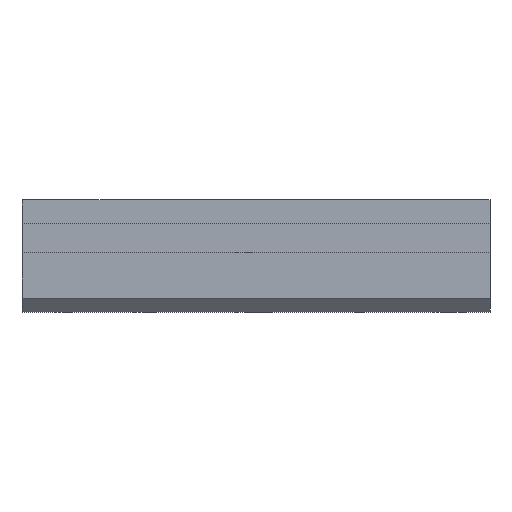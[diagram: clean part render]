
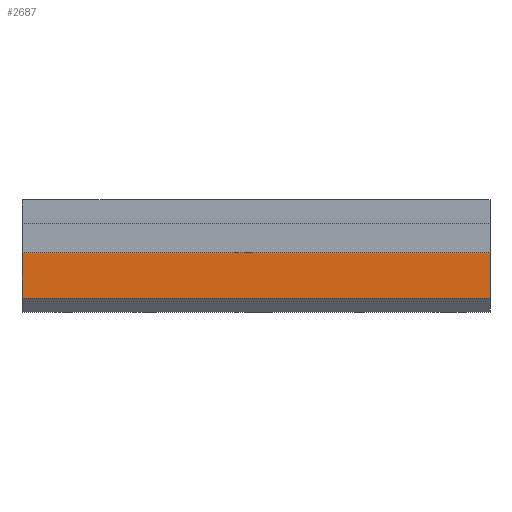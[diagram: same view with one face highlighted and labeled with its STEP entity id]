
A CAD part, front view. The second image highlights one B-rep face of the part: STEP entity #2687.
In plain terms, the highlighted planar face has unit normal (0, -1, 0).
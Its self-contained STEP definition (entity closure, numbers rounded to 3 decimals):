
#2102 = PLANE('',#2103);
#2103 = AXIS2_PLACEMENT_3D('',#2104,#2105,#2106);
#2104 = CARTESIAN_POINT('',(232.886,-103.939,
    7.136));
#2105 = DIRECTION('',(-1.,0.,0.));
#2106 = DIRECTION('',(0.,0.,1.));
#2158 = PLANE('',#2159);
#2159 = AXIS2_PLACEMENT_3D('',#2160,#2161,#2162);
#2160 = CARTESIAN_POINT('',(63.886,-103.939,13.268));
#2161 = DIRECTION('',(1.,0.,0.));
#2162 = DIRECTION('',(0.,0.,-1.));
#2479 = VERTEX_POINT('',#2480);
#2480 = CARTESIAN_POINT('',(63.886,-159.439,
    -8.496));
#2487 = PLANE('',#2488);
#2488 = AXIS2_PLACEMENT_3D('',#2489,#2490,#2491);
#2489 = CARTESIAN_POINT('',(232.886,-159.439,
    -8.496));
#2490 = DIRECTION('',(0.,0.754,0.657));
#2491 = DIRECTION('',(0.,0.657,-0.754
    ));
#2535 = VERTEX_POINT('',#2536);
#2536 = CARTESIAN_POINT('',(232.886,-159.439,
    -8.496));
#2557 = EDGE_CURVE('',#2479,#2535,#2558,.T.);
#2558 = SURFACE_CURVE('',#2559,(#2563,#2570),.PCURVE_S1.);
#2559 = LINE('',#2560,#2561);
#2560 = CARTESIAN_POINT('',(236.636,-159.439,
    -8.496));
#2561 = VECTOR('',#2562,1.);
#2562 = DIRECTION('',(1.,0.,0.));
#2563 = PCURVE('',#2487,#2564);
#2564 = DEFINITIONAL_REPRESENTATION('',(#2565),#2569);
#2565 = LINE('',#2566,#2567);
#2566 = CARTESIAN_POINT('',(0.,-3.75));
#2567 = VECTOR('',#2568,1.);
#2568 = DIRECTION('',(0.,-1.));
#2569 = ( GEOMETRIC_REPRESENTATION_CONTEXT(2) 
PARAMETRIC_REPRESENTATION_CONTEXT() REPRESENTATION_CONTEXT('2D SPACE',''
  ) );
#2570 = PCURVE('',#2571,#2576);
#2571 = PLANE('',#2572);
#2572 = AXIS2_PLACEMENT_3D('',#2573,#2574,#2575);
#2573 = CARTESIAN_POINT('',(240.386,-159.439,18.486));
#2574 = DIRECTION('',(0.,-1.,0.));
#2575 = DIRECTION('',(-1.,0.,0.));
#2576 = DEFINITIONAL_REPRESENTATION('',(#2577),#2581);
#2577 = LINE('',#2578,#2579);
#2578 = CARTESIAN_POINT('',(3.75,26.982));
#2579 = VECTOR('',#2580,1.);
#2580 = DIRECTION('',(-1.,0.));
#2581 = ( GEOMETRIC_REPRESENTATION_CONTEXT(2) 
PARAMETRIC_REPRESENTATION_CONTEXT() REPRESENTATION_CONTEXT('2D SPACE',''
  ) );
#2687 = ADVANCED_FACE('',(#2688),#2571,.T.);
#2688 = FACE_BOUND('',#2689,.T.);
#2689 = EDGE_LOOP('',(#2690,#2691,#2714,#2742));
#2690 = ORIENTED_EDGE('',*,*,#2557,.T.);
#2691 = ORIENTED_EDGE('',*,*,#2692,.T.);
#2692 = EDGE_CURVE('',#2535,#2693,#2695,.T.);
#2693 = VERTEX_POINT('',#2694);
#2694 = CARTESIAN_POINT('',(232.886,-159.439,8.018));
#2695 = SURFACE_CURVE('',#2696,(#2700,#2707),.PCURVE_S1.);
#2696 = LINE('',#2697,#2698);
#2697 = CARTESIAN_POINT('',(232.886,-159.439,
    12.811));
#2698 = VECTOR('',#2699,1.);
#2699 = DIRECTION('',(0.,0.,1.));
#2700 = PCURVE('',#2571,#2701);
#2701 = DEFINITIONAL_REPRESENTATION('',(#2702),#2706);
#2702 = LINE('',#2703,#2704);
#2703 = CARTESIAN_POINT('',(7.5,5.675));
#2704 = VECTOR('',#2705,1.);
#2705 = DIRECTION('',(0.,-1.));
#2706 = ( GEOMETRIC_REPRESENTATION_CONTEXT(2) 
PARAMETRIC_REPRESENTATION_CONTEXT() REPRESENTATION_CONTEXT('2D SPACE',''
  ) );
#2707 = PCURVE('',#2102,#2708);
#2708 = DEFINITIONAL_REPRESENTATION('',(#2709),#2713);
#2709 = LINE('',#2710,#2711);
#2710 = CARTESIAN_POINT('',(5.675,-55.5));
#2711 = VECTOR('',#2712,1.);
#2712 = DIRECTION('',(1.,0.));
#2713 = ( GEOMETRIC_REPRESENTATION_CONTEXT(2) 
PARAMETRIC_REPRESENTATION_CONTEXT() REPRESENTATION_CONTEXT('2D SPACE',''
  ) );
#2714 = ORIENTED_EDGE('',*,*,#2715,.T.);
#2715 = EDGE_CURVE('',#2693,#2716,#2718,.T.);
#2716 = VERTEX_POINT('',#2717);
#2717 = CARTESIAN_POINT('',(63.886,-159.439,8.018));
#2718 = SURFACE_CURVE('',#2719,(#2723,#2730),.PCURVE_S1.);
#2719 = LINE('',#2720,#2721);
#2720 = CARTESIAN_POINT('',(240.386,-159.439,8.018));
#2721 = VECTOR('',#2722,1.);
#2722 = DIRECTION('',(-1.,0.,0.));
#2723 = PCURVE('',#2571,#2724);
#2724 = DEFINITIONAL_REPRESENTATION('',(#2725),#2729);
#2725 = LINE('',#2726,#2727);
#2726 = CARTESIAN_POINT('',(0.,10.468));
#2727 = VECTOR('',#2728,1.);
#2728 = DIRECTION('',(1.,0.));
#2729 = ( GEOMETRIC_REPRESENTATION_CONTEXT(2) 
PARAMETRIC_REPRESENTATION_CONTEXT() REPRESENTATION_CONTEXT('2D SPACE',''
  ) );
#2730 = PCURVE('',#2731,#2736);
#2731 = PLANE('',#2732);
#2732 = AXIS2_PLACEMENT_3D('',#2733,#2734,#2735);
#2733 = CARTESIAN_POINT('',(240.386,-158.439,8.018));
#2734 = DIRECTION('',(0.,0.,-1.));
#2735 = DIRECTION('',(-1.,0.,0.));
#2736 = DEFINITIONAL_REPRESENTATION('',(#2737),#2741);
#2737 = LINE('',#2738,#2739);
#2738 = CARTESIAN_POINT('',(0.,-1.));
#2739 = VECTOR('',#2740,1.);
#2740 = DIRECTION('',(1.,0.));
#2741 = ( GEOMETRIC_REPRESENTATION_CONTEXT(2) 
PARAMETRIC_REPRESENTATION_CONTEXT() REPRESENTATION_CONTEXT('2D SPACE',''
  ) );
#2742 = ORIENTED_EDGE('',*,*,#2743,.T.);
#2743 = EDGE_CURVE('',#2716,#2479,#2744,.T.);
#2744 = SURFACE_CURVE('',#2745,(#2749,#2756),.PCURVE_S1.);
#2745 = LINE('',#2746,#2747);
#2746 = CARTESIAN_POINT('',(63.886,-159.439,15.877));
#2747 = VECTOR('',#2748,1.);
#2748 = DIRECTION('',(0.,0.,-1.));
#2749 = PCURVE('',#2571,#2750);
#2750 = DEFINITIONAL_REPRESENTATION('',(#2751),#2755);
#2751 = LINE('',#2752,#2753);
#2752 = CARTESIAN_POINT('',(176.5,2.609));
#2753 = VECTOR('',#2754,1.);
#2754 = DIRECTION('',(0.,1.));
#2755 = ( GEOMETRIC_REPRESENTATION_CONTEXT(2) 
PARAMETRIC_REPRESENTATION_CONTEXT() REPRESENTATION_CONTEXT('2D SPACE',''
  ) );
#2756 = PCURVE('',#2158,#2757);
#2757 = DEFINITIONAL_REPRESENTATION('',(#2758),#2762);
#2758 = LINE('',#2759,#2760);
#2759 = CARTESIAN_POINT('',(-2.609,-55.5));
#2760 = VECTOR('',#2761,1.);
#2761 = DIRECTION('',(1.,0.));
#2762 = ( GEOMETRIC_REPRESENTATION_CONTEXT(2) 
PARAMETRIC_REPRESENTATION_CONTEXT() REPRESENTATION_CONTEXT('2D SPACE',''
  ) );
